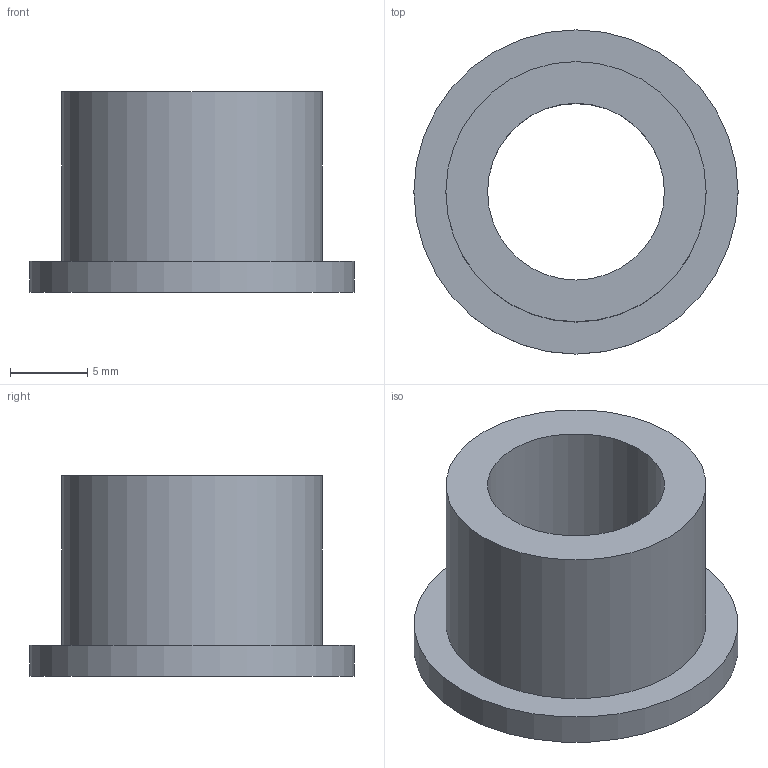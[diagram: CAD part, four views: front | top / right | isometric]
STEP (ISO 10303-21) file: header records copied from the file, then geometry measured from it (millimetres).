
FILE_DESCRIPTION (( 'STEP AP214' ), '1' );
FILE_NAME ('JF-20403-0006.STEP', '2018-04-18T15:14:10', ( '' ), ( '' ), 'SwSTEP 2.0', 'SolidWorks 2017', '' );
FILE_SCHEMA (( 'AUTOMOTIVE_DESIGN' ));
Length unit declared in the file: millimetre
Products named in the file (1): JF-20403-0006
Bounding box: 21 x 21 x 13 mm (x, y, z)
Volume: 1809.3 mm3; surface area: 1668.8 mm2
Topology: 1 solids, 1 shells, 10 faces, 17 edges, 11 vertices
Faces by surface type: cylinder 4, plane 4, cone 2
Full cylindrical faces by diameter (mm): 11.445 x1, 13.557 x1, 16.854 x1, 21 x1
Entity records: 242 total; most frequent: DIRECTION 42, CARTESIAN_POINT 31, AXIS2_PLACEMENT_3D 21, ORIENTED_EDGE 20, EDGE_LOOP 20, FACE_OUTER_BOUND 14, ADVANCED_FACE 10, EDGE_CURVE 10
